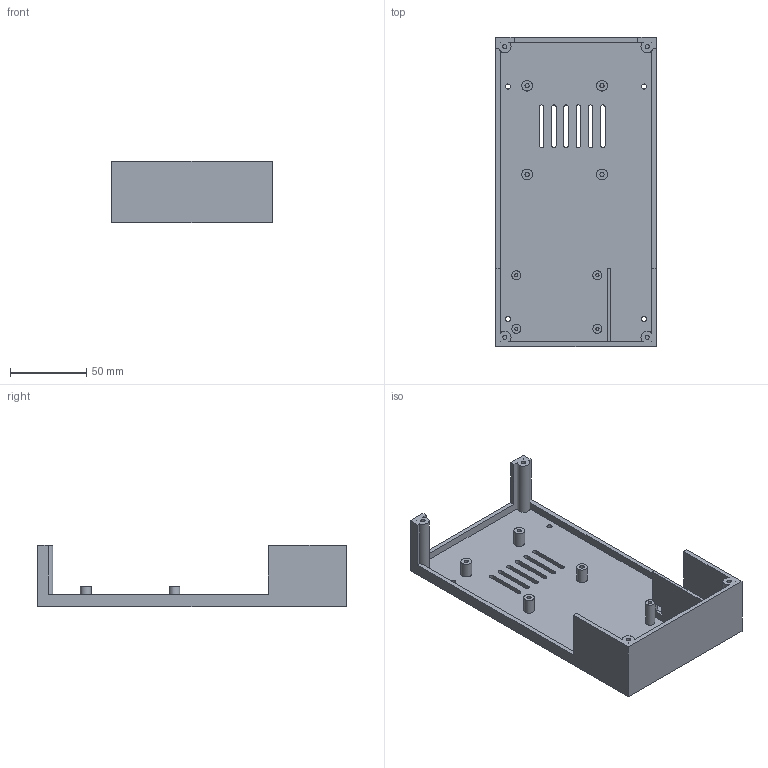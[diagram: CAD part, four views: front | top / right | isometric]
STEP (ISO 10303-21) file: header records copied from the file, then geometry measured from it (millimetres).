
FILE_DESCRIPTION(('Open CASCADE Model'),'2;1');
FILE_NAME('Open CASCADE Shape Model','2026-11-11T15:03:45',('Author'),( 'Open CASCADE'),'Open CASCADE STEP processor 7.8','Open CASCADE 7.8' ,'Unknown');
FILE_SCHEMA(('AUTOMOTIVE_DESIGN { 1 0 10303 214 1 1 1 1 }'));
Length unit declared in the file: millimetre
Products named in the file (1): Open CASCADE STEP translator 7.8 1
Bounding box: 105 x 202 x 40 mm (x, y, z)
Volume: 105936.8 mm3; surface area: 72834.2 mm2
Topology: 1 solids, 1 shells, 118 faces, 276 edges, 184 vertices
Faces by surface type: plane 74, cylinder 44
Full cylindrical faces by diameter (mm): 2.1 x4, 2.7 x8, 3.3 x4, 6 x4, 7 x4
Entity records: 7018 total; most frequent: CARTESIAN_POINT 1559, DIRECTION 958, ORIENTED_EDGE 552, PCURVE 552, DEFINITIONAL_REPRESENTATION 552, LINE 496, VECTOR 496, EDGE_CURVE 276
